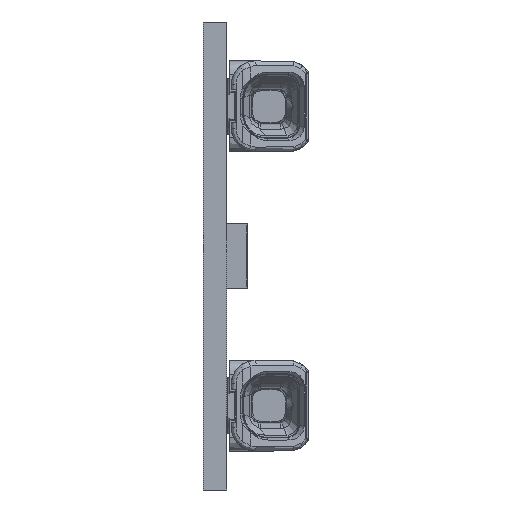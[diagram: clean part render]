
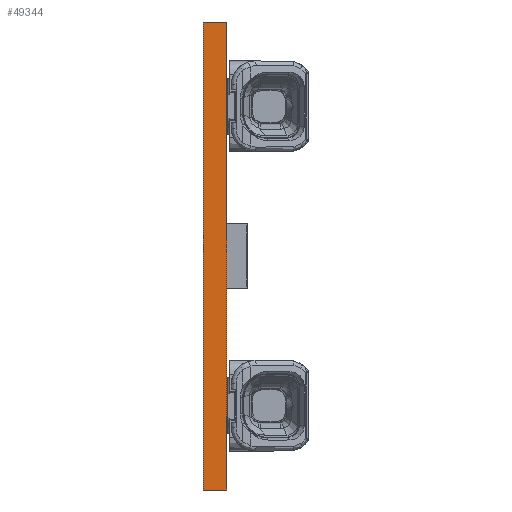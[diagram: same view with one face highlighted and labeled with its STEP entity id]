
A CAD part, left-side view. The second image highlights one B-rep face of the part: STEP entity #49344.
In plain terms, the highlighted planar face has unit normal (-1, 0, 0).
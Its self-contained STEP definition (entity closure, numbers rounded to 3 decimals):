
#3306=ORIENTED_EDGE('',*,*,#14401,.F.);
#3307=ORIENTED_EDGE('',*,*,#14651,.F.);
#3308=ORIENTED_EDGE('',*,*,#14567,.T.);
#3309=ORIENTED_EDGE('',*,*,#14650,.T.);
#14401=EDGE_CURVE('',#20242,#20243,#24140,.T.);
#14567=EDGE_CURVE('',#20326,#20408,#24266,.T.);
#14650=EDGE_CURVE('',#20408,#20243,#24349,.T.);
#14651=EDGE_CURVE('',#20326,#20242,#24350,.T.);
#20242=VERTEX_POINT('',#65715);
#20243=VERTEX_POINT('',#65717);
#20326=VERTEX_POINT('',#65884);
#20408=VERTEX_POINT('',#66048);
#24140=LINE('',#65716,#28782);
#24266=LINE('',#66049,#28908);
#24349=LINE('',#66214,#28991);
#24350=LINE('',#66216,#28992);
#28782=VECTOR('',#54791,1000.);
#28908=VECTOR('',#54999,1000.);
#28991=VECTOR('',#55246,1000.);
#28992=VECTOR('',#55249,1000.);
#33180=EDGE_LOOP('',(#3306,#3307,#3308,#3309));
#35689=FACE_BOUND('',#33180,.T.);
#38065=PLANE('',#51688);
#49344=ADVANCED_FACE('',(#35689),#38065,.T.);
#51688=AXIS2_PLACEMENT_3D('',#66215,#55247,#55248);
#54791=DIRECTION('',(0.,0.,-1.));
#54999=DIRECTION('',(0.,0.,-1.));
#55246=DIRECTION('',(0.,-1.,0.));
#55247=DIRECTION('',(-1.,0.,0.));
#55248=DIRECTION('',(0.,0.,1.));
#55249=DIRECTION('',(0.,-1.,0.));
#65715=CARTESIAN_POINT('',(-280.,0.,10.));
#65716=CARTESIAN_POINT('',(-280.,0.,10.));
#65717=CARTESIAN_POINT('',(-280.,0.,-10.));
#65884=CARTESIAN_POINT('',(-280.,1.,10.));
#66048=CARTESIAN_POINT('',(-280.,1.,-10.));
#66049=CARTESIAN_POINT('',(-280.,1.,10.));
#66214=CARTESIAN_POINT('',(-280.,1.,-10.));
#66215=CARTESIAN_POINT('',(-280.,1.,10.));
#66216=CARTESIAN_POINT('',(-280.,1.,10.));
